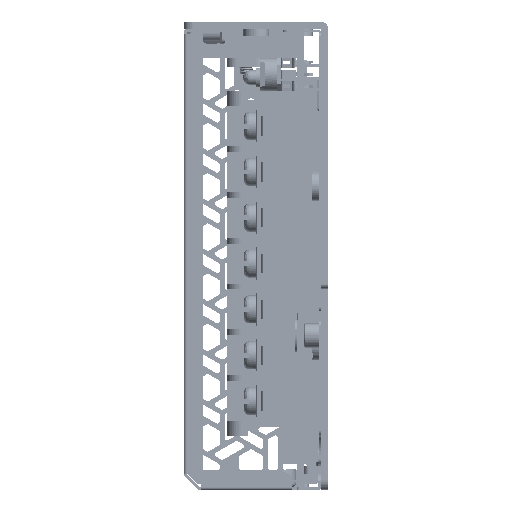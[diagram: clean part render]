
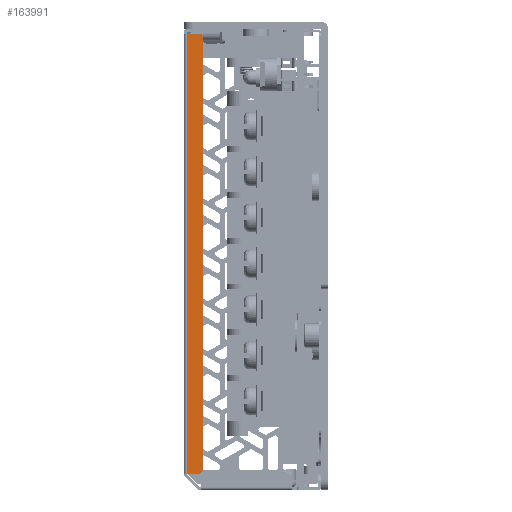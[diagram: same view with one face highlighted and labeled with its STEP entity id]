
A CAD part, left-side view. The second image highlights one B-rep face of the part: STEP entity #163991.
In plain terms, the highlighted free-form (B-spline) face has degree [3, 3] with [4, 4] control points.
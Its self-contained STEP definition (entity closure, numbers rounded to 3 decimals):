
#35920=CARTESIAN_POINT('',(-46.5,26.5,45.6));
#35921=DIRECTION('',(1.,0.,0.));
#35922=DIRECTION('',(0.,0.,1.));
#35923=AXIS2_PLACEMENT_3D('',#35920,#35921,#35922);
#35925=CARTESIAN_POINT('',(-46.5,27.,-44.151));
#35926=DIRECTION('',(1.,0.,0.));
#35927=DIRECTION('',(0.,-1.,0.));
#35928=AXIS2_PLACEMENT_3D('',#35925,#35926,#35927);
#35930=DIRECTION('',(0.,0.,1.));
#35931=VECTOR('',#35930,91.251);
#35932=CARTESIAN_POINT('',(-46.5,29.4,-45.151));
#35933=LINE('',#35932,#35931);
#35934=DIRECTION('',(0.,-1.,0.));
#35935=VECTOR('',#35934,2.9);
#35936=CARTESIAN_POINT('',(-46.5,29.4,46.1));
#35937=LINE('',#35936,#35935);
#35942=DIRECTION('',(0.,0.,1.));
#35943=VECTOR('',#35942,89.751);
#35944=CARTESIAN_POINT('',(-46.5,26.,-44.151));
#35945=LINE('',#35944,#35943);
#68303=DIRECTION('',(0.,-1.,0.));
#68304=VECTOR('',#68303,2.4);
#68305=CARTESIAN_POINT('',(-46.5,29.4,-45.151));
#68306=LINE('',#68305,#68304);
#84107=CARTESIAN_POINT('',(-46.5,29.4,-45.151));
#84108=CARTESIAN_POINT('',(-46.5,29.4,46.1));
#84109=VERTEX_POINT('',#84107);
#84110=VERTEX_POINT('',#84108);
#84117=CARTESIAN_POINT('',(-46.5,26.5,46.1));
#84118=VERTEX_POINT('',#84117);
#84119=CARTESIAN_POINT('',(-46.5,26.,45.6));
#84121=VERTEX_POINT('',#84119);
#84123=CARTESIAN_POINT('',(-46.5,26.,-44.151));
#84124=CARTESIAN_POINT('',(-46.5,27.,-45.151));
#84125=VERTEX_POINT('',#84123);
#84126=VERTEX_POINT('',#84124);
#163963=CARTESIAN_POINT('',(-46.5,29.598,47.925));
#163964=CARTESIAN_POINT('',(-46.5,28.333,47.925));
#163965=CARTESIAN_POINT('',(-46.5,27.067,47.925));
#163966=CARTESIAN_POINT('',(-46.5,25.802,47.925));
#163967=CARTESIAN_POINT('',(-46.5,29.598,16.291));
#163968=CARTESIAN_POINT('',(-46.5,28.333,16.291));
#163969=CARTESIAN_POINT('',(-46.5,27.067,16.291));
#163970=CARTESIAN_POINT('',(-46.5,25.802,16.291));
#163971=CARTESIAN_POINT('',(-46.5,29.598,-15.343));
#163972=CARTESIAN_POINT('',(-46.5,28.333,-15.343));
#163973=CARTESIAN_POINT('',(-46.5,27.067,-15.343));
#163974=CARTESIAN_POINT('',(-46.5,25.802,-15.343));
#163975=CARTESIAN_POINT('',(-46.5,29.598,-46.977));
#163976=CARTESIAN_POINT('',(-46.5,28.333,-46.977));
#163977=CARTESIAN_POINT('',(-46.5,27.067,-46.977));
#163978=CARTESIAN_POINT('',(-46.5,25.802,-46.977));
#163979=B_SPLINE_SURFACE_WITH_KNOTS('',3,3,((#163963,#163964,#163965,#163966),(
#163967,#163968,#163969,#163970),(#163971,#163972,#163973,#163974),(#163975,
#163976,#163977,#163978)),.UNSPECIFIED.,.F.,.F.,.F.,(4,4),(4,4),(
-95.825,-0.923),(0.402,4.198),
.UNSPECIFIED.);
#163980=ORIENTED_EDGE('',*,*,#163946,.T.);
#163982=ORIENTED_EDGE('',*,*,#163981,.F.);
#163984=ORIENTED_EDGE('',*,*,#163983,.T.);
#163986=ORIENTED_EDGE('',*,*,#163985,.F.);
#163987=ORIENTED_EDGE('',*,*,#163888,.T.);
#163988=ORIENTED_EDGE('',*,*,#163922,.T.);
#163989=EDGE_LOOP('',(#163980,#163982,#163984,#163986,#163987,#163988));
#163990=FACE_OUTER_BOUND('',#163989,.F.);
#163991=ADVANCED_FACE('',(#163990),#163979,.T.);
#35924=CIRCLE('',#35923,0.5);
#35929=CIRCLE('',#35928,1.);
#163888=EDGE_CURVE('',#84109,#84110,#35933,.T.);
#163922=EDGE_CURVE('',#84110,#84118,#35937,.T.);
#163946=EDGE_CURVE('',#84118,#84121,#35924,.T.);
#163981=EDGE_CURVE('',#84125,#84121,#35945,.T.);
#163983=EDGE_CURVE('',#84125,#84126,#35929,.T.);
#163985=EDGE_CURVE('',#84109,#84126,#68306,.T.);
